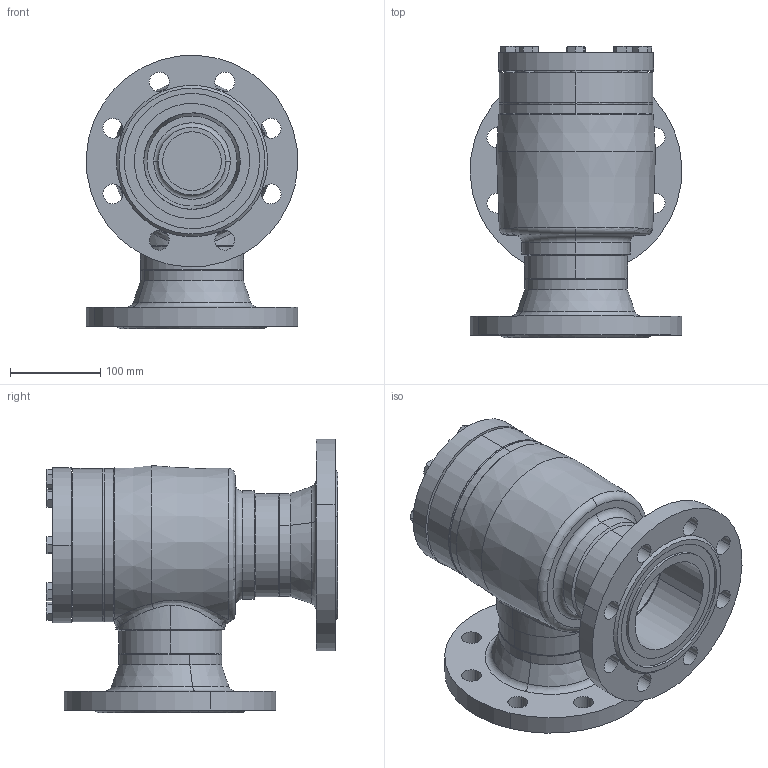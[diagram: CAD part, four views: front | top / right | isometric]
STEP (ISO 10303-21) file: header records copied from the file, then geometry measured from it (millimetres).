
FILE_DESCRIPTION (( 'STEP AP214' ), '1' );
FILE_NAME ('RV28420D19-DN100_DIN-FL-N_PS40.STEP', '2007-01-08T07:38:06', ( 'Herr Grams' ), ( 'AWP GmbH' ), 'SwSTEP 2.0', 'SolidWorks 2002296', '' );
FILE_SCHEMA (( 'AUTOMOTIVE_DESIGN' ));
Length unit declared in the file: millimetre
Products named in the file (12): RV28420D19-DN100_DIN-FL-N_PS40; RV28300E19_Deck+Schr-DN100_Standard; Deckel28300E19-DN100_Standard; Sechskantschraube-DIN933_M12x 35; Gehäuse-kpl16420-DN100_DIN_PS40_Standard; bead-DN100-4_Standard; Gehäuse-kpl16400-DN100_R1_Standard; Gehäuse16400-DN100_Standard; Kopfstück16300-DN100_Standard; bead-DN100-1_Standard; Flansch-DIN-Nut_PS40_DIN-Flansch-DN100_PS40-Nut; bead-DN100-3_Standard
Assembly tree (19 placements, depth 4):
  RV28420D19-DN100_DIN-FL-N_PS40
    RV28300E19_Deck+Schr-DN100_Standard
      Sechskantschraube-DIN933_M12x 35  x8
      Deckel28300E19-DN100_Standard
    Gehäuse-kpl16420-DN100_DIN_PS40_Standard
      bead-DN100-3_Standard
      bead-DN100-4_Standard
      Gehäuse-kpl16400-DN100_R1_Standard
        bead-DN100-1_Standard
        Kopfstück16300-DN100_Standard
        Gehäuse16400-DN100_Standard
      Flansch-DIN-Nut_PS40_DIN-Flansch-DN100_PS40-Nut  x2
Bounding box: 234.78 x 323.5 x 303.39 mm (x, y, z)
Volume: 4276929.1 mm3; surface area: 661996.5 mm2
Topology: 16 solids, 16 shells, 381 faces, 862 edges, 519 vertices
Faces by surface type: cone 132, cylinder 117, plane 104, bspline 18, torus 10
Entity records: 18008 total; most frequent: CARTESIAN_POINT 13435, DIRECTION 871, ORIENTED_EDGE 788, EDGE_CURVE 394, AXIS2_PLACEMENT_3D 387, VERTEX_POINT 245, EDGE_LOOP 217, CIRCLE 212
